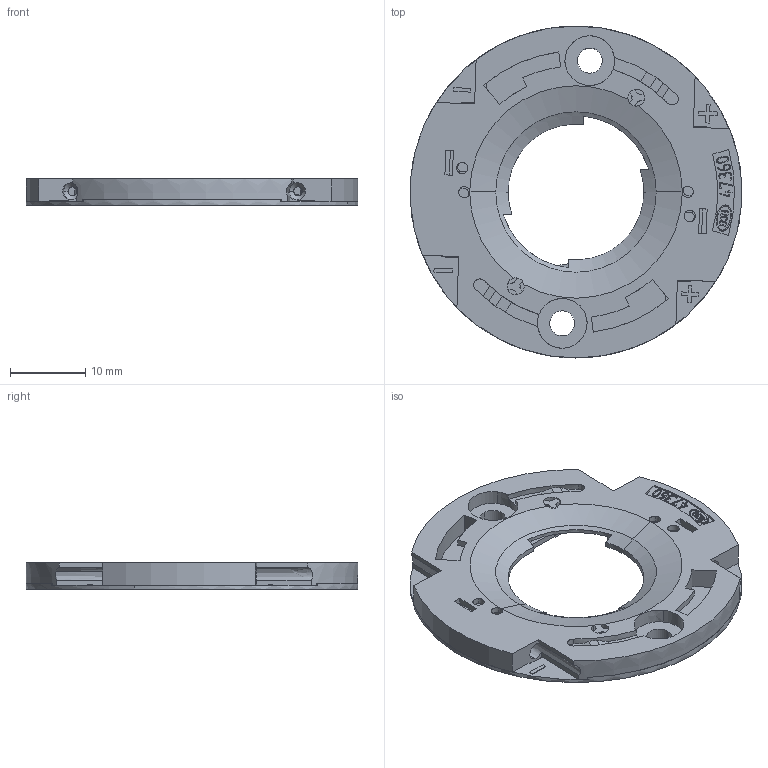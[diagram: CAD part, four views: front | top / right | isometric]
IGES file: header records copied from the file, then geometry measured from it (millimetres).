
Global section: file name: C:\CoreTechnologie\3D-in/01ZYR1PY05.igs; native system: CT CoreTechnologie 3D Evolution; preprocessor: 2006; date: 1190017.115443; units: millimetre
Bounding box: 44 x 44 x 3.5 mm (x, y, z)
Volume: 2577.6 mm3; surface area: 6052.5 mm2
Topology: 2 solids, 2 shells, 714 faces, 2038 edges, 1374 vertices
Faces by surface type: plane 488, revolution 200, bspline 26
